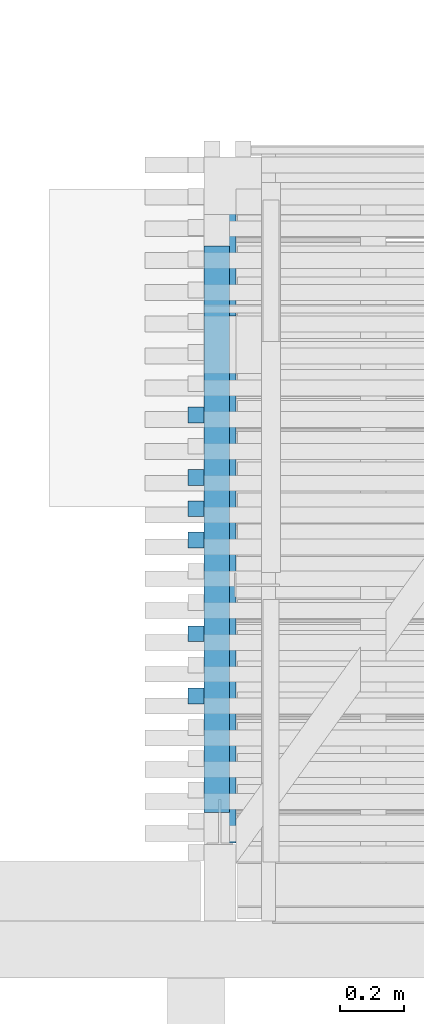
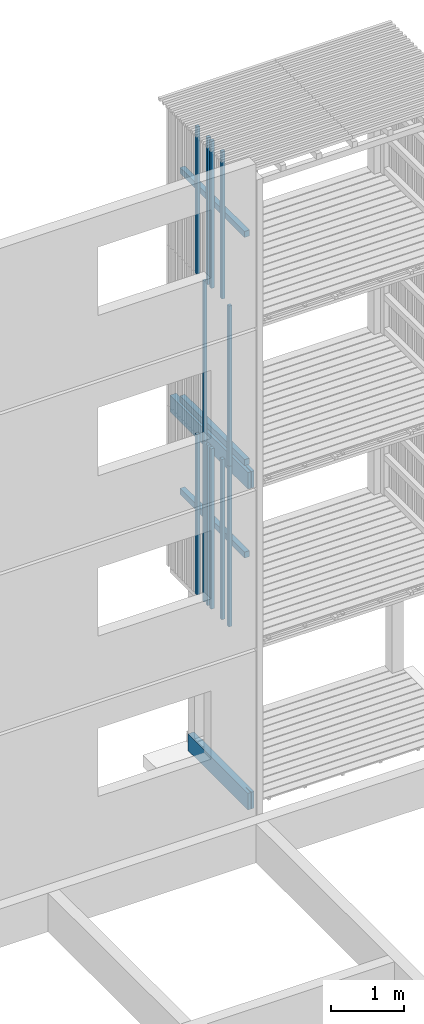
# One storey, part 113 of 182: 17 beams.
"""IFC2X3 building model written with IfcOpenShell, lengths in metres."""

from ifc_helpers import new_model, si_unit, frame, origin, place, context, project, spatial, faceted_brep, element, save


model = new_model("IFC2X3")

# Units and contexts
model_context = context("Model", 3, precision=1e-06, world=origin())
ifc_project = project(units=[si_unit("LENGTHUNIT", "METRE"), si_unit("PLANEANGLEUNIT", "RADIAN")], contexts=[model_context])

# Site, building, storey
site = spatial("IfcSite", under=ifc_project, CompositionType="ELEMENT")
building = spatial("IfcBuilding", under=site, CompositionType="ELEMENT")
storey = spatial("IfcBuildingStorey", under=building, Name="vs", CompositionType="ELEMENT", Elevation=-0.85)

# Beams
placement = place(None, origin())
beam_1_placement = place(placement, frame((53.074999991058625, 5.115077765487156, -0.119999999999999), z_axis=(0.0, 0.0, 1.0), x_axis=(0.0, 1.0, 0.0)))
element("IfcBeam", 1, at=beam_1_placement, inside=storey, Name="Sommier", context=model_context, shape_type="Brep", body=[
    faceted_brep([(0.771999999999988, -0.045000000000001, 0.051399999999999), (0.847999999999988, -0.045000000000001, 0.051399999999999), (0.847999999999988, -0.049999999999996, 0.051399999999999), (0.771999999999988, -0.049999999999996, 0.051399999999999), (0.847999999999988, -0.045000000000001, -0.123600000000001), (0.847999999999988, -0.049999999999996, -0.123600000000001), (0.847999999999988, -0.049999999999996, 0.051399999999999), (0.847999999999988, -0.045000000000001, 0.051399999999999), (0.771999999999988, -0.049999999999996, -0.123600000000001), (0.771999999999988, -0.045000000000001, -0.123600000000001), (0.771999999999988, -0.045000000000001, 0.051399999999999), (0.771999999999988, -0.049999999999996, 0.051399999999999), (0.847999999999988, -0.049999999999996, -0.123600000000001), (0.847999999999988, -0.045000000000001, -0.123600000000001), (0.771999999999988, -0.045000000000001, -0.123600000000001), (0.771999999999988, -0.049999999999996, -0.123600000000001), (1.654999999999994, 0.049999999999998, 0.14), (1.654999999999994, -0.049999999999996, 0.14), (1.654999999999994, -0.049999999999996, -0.14), (1.654999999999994, 0.049999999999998, -0.14), (0.137, -0.00399999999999, 0.14), (0.0, -0.00399999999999, 0.14), (0.0, -0.049999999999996, 0.14), (1.654999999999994, -0.049999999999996, 0.14), (1.654999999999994, 0.049999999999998, 0.14), (0.0, 0.049999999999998, 0.14), (0.0, 0.004000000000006, 0.14), (0.137, 0.004000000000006, 0.14), (0.0, -0.049999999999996, -0.14), (1.654999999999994, -0.049999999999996, -0.14), (1.654999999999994, -0.049999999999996, 0.14), (0.0, -0.049999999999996, 0.14), (0.771999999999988, -0.049999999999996, 0.051399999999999), (0.847999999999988, -0.049999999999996, 0.051399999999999), (0.847999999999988, -0.049999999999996, -0.123600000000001), (0.771999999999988, -0.049999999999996, -0.123600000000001), (0.771999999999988, -0.045000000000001, 0.051399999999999), (0.771999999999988, -0.045000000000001, -0.123600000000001), (0.847999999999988, -0.045000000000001, -0.123600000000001), (0.847999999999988, -0.045000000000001, 0.051399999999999), (0.0, 0.049999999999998, 0.14), (1.654999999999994, 0.049999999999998, 0.14), (1.654999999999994, 0.049999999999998, -0.14), (0.0, 0.049999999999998, -0.14), (0.0, 0.004000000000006, -0.14), (0.0, 0.004000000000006, 0.14), (0.0, 0.049999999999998, 0.14), (0.0, 0.049999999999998, -0.14), (0.0, -0.049999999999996, 0.14), (0.0, -0.00399999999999, 0.14), (0.0, -0.00399999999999, -0.14), (0.0, -0.049999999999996, -0.14), (0.0, 0.004000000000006, -0.14), (0.0, 0.049999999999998, -0.14), (1.654999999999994, 0.049999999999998, -0.14), (1.654999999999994, -0.049999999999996, -0.14), (0.0, -0.049999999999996, -0.14), (0.0, -0.00399999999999, -0.14), (0.137, -0.00399999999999, -0.14), (0.137, 0.004000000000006, -0.14), (0.137, 0.004000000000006, -0.14), (0.137, -0.00399999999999, -0.14), (0.137, -0.00399999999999, 0.14), (0.137, 0.004000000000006, 0.14), (0.0, -0.00399999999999, 0.14), (0.137, -0.00399999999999, 0.14), (0.137, -0.00399999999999, -0.14), (0.0, -0.00399999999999, -0.14), (0.137, 0.004000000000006, 0.14), (0.0, 0.004000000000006, 0.14), (0.0, 0.004000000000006, -0.14), (0.137, 0.004000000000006, -0.14)], [[[0, 1, 2, 3]], [[4, 5, 6, 7]], [[8, 9, 10, 11]], [[12, 13, 14, 15]], [[16, 17, 18, 19]], [[20, 21, 22, 23, 24, 25, 26, 27]], [[28, 29, 30, 31], [32, 33, 34, 35]], [[36, 37, 38, 39]], [[40, 41, 42, 43]], [[44, 45, 46, 47]], [[48, 49, 50, 51]], [[52, 53, 54, 55, 56, 57, 58, 59]], [[60, 61, 62, 63]], [[64, 65, 66, 67]], [[68, 69, 70, 71]]]),
])
beam_2_placement = place(placement, frame((53.074999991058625, 5.115077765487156, 5.279999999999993), z_axis=(0.0, 0.0, 1.0), x_axis=(0.0, 1.0, 0.0)))
element("IfcBeam", 2, at=beam_2_placement, inside=storey, Name="Sommier", context=model_context, shape_type="Brep", body=[
    faceted_brep([(2.154999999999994, 0.049999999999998, 0.140000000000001), (2.154999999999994, -0.049999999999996, 0.140000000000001), (2.154999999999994, -0.049999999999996, -0.140000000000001), (2.154999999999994, 0.049999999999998, -0.140000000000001), (0.771999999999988, -0.049999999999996, -0.140000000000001), (0.771999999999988, -0.049999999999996, 0.034999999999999), (0.847999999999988, -0.049999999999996, 0.034999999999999), (0.847999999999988, -0.049999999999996, -0.140000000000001), (2.154999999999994, -0.049999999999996, -0.140000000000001), (2.154999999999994, -0.049999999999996, 0.140000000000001), (0.0, -0.049999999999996, 0.140000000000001), (0.0, -0.049999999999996, -0.140000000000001), (0.771999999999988, -0.045000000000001, -0.140000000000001), (0.847999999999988, -0.045000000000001, -0.140000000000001), (0.847999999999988, -0.045000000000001, 0.034999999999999), (0.771999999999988, -0.045000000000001, 0.034999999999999), (0.771999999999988, -0.045000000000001, 0.034999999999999), (0.847999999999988, -0.045000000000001, 0.034999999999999), (0.847999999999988, -0.049999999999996, 0.034999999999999), (0.771999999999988, -0.049999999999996, 0.034999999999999), (0.847999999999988, -0.045000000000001, 0.034999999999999), (0.847999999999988, -0.045000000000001, -0.140000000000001), (0.847999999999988, -0.049999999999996, -0.140000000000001), (0.847999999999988, -0.049999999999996, 0.034999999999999), (0.771999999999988, -0.049999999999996, 0.034999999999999), (0.771999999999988, -0.049999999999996, -0.140000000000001), (0.771999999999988, -0.045000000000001, -0.140000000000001), (0.771999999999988, -0.045000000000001, 0.034999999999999), (2.154999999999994, 0.049999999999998, 0.140000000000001), (2.154999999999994, 0.049999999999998, -0.140000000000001), (0.0, 0.049999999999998, -0.140000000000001), (0.0, 0.049999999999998, 0.140000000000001), (0.0, -0.00399999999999, 0.140000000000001), (0.0, -0.049999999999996, 0.140000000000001), (2.154999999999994, -0.049999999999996, 0.140000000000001), (2.154999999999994, 0.049999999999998, 0.140000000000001), (0.0, 0.049999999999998, 0.140000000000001), (0.0, 0.004000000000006, 0.140000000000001), (0.137, 0.004000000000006, 0.140000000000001), (0.137, -0.00399999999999, 0.140000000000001), (0.0, 0.004000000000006, -0.140000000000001), (0.0, 0.004000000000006, 0.140000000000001), (0.0, 0.049999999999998, 0.140000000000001), (0.0, 0.049999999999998, -0.140000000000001), (0.0, -0.049999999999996, 0.140000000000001), (0.0, -0.00399999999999, 0.140000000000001), (0.0, -0.00399999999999, -0.140000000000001), (0.0, -0.049999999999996, -0.140000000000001), (0.0, 0.049999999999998, -0.140000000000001), (2.154999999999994, 0.049999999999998, -0.140000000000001), (2.154999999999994, -0.049999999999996, -0.140000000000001), (0.847999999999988, -0.049999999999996, -0.140000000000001), (0.847999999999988, -0.045000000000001, -0.140000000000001), (0.771999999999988, -0.045000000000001, -0.140000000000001), (0.771999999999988, -0.049999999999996, -0.140000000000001), (0.0, -0.049999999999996, -0.140000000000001), (0.0, -0.00399999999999, -0.140000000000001), (0.137, -0.00399999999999, -0.140000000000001), (0.137, 0.004000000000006, -0.140000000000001), (0.0, 0.004000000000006, -0.140000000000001), (0.137, 0.004000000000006, -0.140000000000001), (0.137, -0.00399999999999, -0.140000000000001), (0.137, -0.00399999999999, 0.140000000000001), (0.137, 0.004000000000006, 0.140000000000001), (0.0, -0.00399999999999, 0.140000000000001), (0.137, -0.00399999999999, 0.140000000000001), (0.137, -0.00399999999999, -0.140000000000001), (0.0, -0.00399999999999, -0.140000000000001), (0.137, 0.004000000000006, 0.140000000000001), (0.0, 0.004000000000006, 0.140000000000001), (0.0, 0.004000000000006, -0.140000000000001), (0.137, 0.004000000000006, -0.140000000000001)], [[[0, 1, 2, 3]], [[4, 5, 6, 7, 8, 9, 10, 11]], [[12, 13, 14, 15]], [[16, 17, 18, 19]], [[20, 21, 22, 23]], [[24, 25, 26, 27]], [[28, 29, 30, 31]], [[32, 33, 34, 35, 36, 37, 38, 39]], [[40, 41, 42, 43]], [[44, 45, 46, 47]], [[48, 49, 50, 51, 52, 53, 54, 55, 56, 57, 58, 59]], [[60, 61, 62, 63]], [[64, 65, 66, 67]], [[68, 69, 70, 71]]]),
])
beam_3_placement = place(placement, frame((53.06499999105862, 5.210077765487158, 5.529999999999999), z_axis=(0.0, 0.0, 1.0), x_axis=(0.0, 1.0, 0.0)))
element("IfcBeam", 3, at=beam_3_placement, inside=storey, Name="Support bardage", context=model_context, shape_type="Brep", body=[
    faceted_brep([(1.779999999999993, 0.039999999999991, -0.050000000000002), (1.779999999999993, 0.039999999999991, 0.05), (1.779999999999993, -0.040000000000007, 0.05), (1.779999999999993, -0.040000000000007, -0.050000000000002), (1.779999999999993, -0.040000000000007, 0.05), (1.779999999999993, 0.039999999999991, 0.05), (-4e-15, 0.039999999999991, 0.05), (-4e-15, -0.040000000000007, 0.05), (-4e-15, 0.039999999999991, 0.05), (1.779999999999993, 0.039999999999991, 0.05), (1.779999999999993, 0.039999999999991, -0.050000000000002), (-4e-15, 0.039999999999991, -0.050000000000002), (1.779999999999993, -0.040000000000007, -0.050000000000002), (1.779999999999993, -0.040000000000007, 0.05), (-4e-15, -0.040000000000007, 0.05), (-4e-15, -0.040000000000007, -0.050000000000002), (-4e-15, 0.039999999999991, -0.050000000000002), (1.779999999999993, 0.039999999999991, -0.050000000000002), (1.779999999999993, -0.040000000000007, -0.050000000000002), (-4e-15, -0.040000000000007, -0.050000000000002), (-4e-15, 0.039999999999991, 0.05), (-4e-15, 0.039999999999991, -0.050000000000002), (-4e-15, -0.040000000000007, -0.050000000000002), (-4e-15, -0.040000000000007, 0.05)], [[[0, 1, 2, 3]], [[4, 5, 6, 7]], [[8, 9, 10, 11]], [[12, 13, 14, 15]], [[16, 17, 18, 19]], [[20, 21, 22, 23]]]),
])
beam_4_placement = place(placement, frame((52.999999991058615, 6.459623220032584, 7.974999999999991), z_axis=(1.0, 0.0, 0.0), x_axis=(0.0, 0.0, 1.0)))
element("IfcBeam", 4, at=beam_4_placement, inside=storey, Name="Bardage", context=model_context, shape_type="Brep", body=[
    faceted_brep([(0.0, -0.025000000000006, 0.025000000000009), (0.0, 0.024999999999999, 0.025000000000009), (0.0, 0.024999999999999, -0.025000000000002), (0.0, -0.025000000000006, -0.025000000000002), (2.479999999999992, 0.024999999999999, -0.025000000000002), (2.479999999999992, 0.024999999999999, 0.025000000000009), (2.479999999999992, -0.025000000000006, 0.025000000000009), (2.479999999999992, -0.025000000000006, -0.025000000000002), (0.0, 0.024999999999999, 0.025000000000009), (0.0, -0.025000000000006, 0.025000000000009), (2.479999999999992, -0.025000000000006, 0.025000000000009), (2.479999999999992, 0.024999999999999, 0.025000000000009), (0.0, 0.024999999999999, -0.025000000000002), (0.0, 0.024999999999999, 0.025000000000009), (2.479999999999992, 0.024999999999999, 0.025000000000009), (2.479999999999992, 0.024999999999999, -0.025000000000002), (0.0, -0.025000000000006, -0.025000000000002), (0.0, 0.024999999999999, -0.025000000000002), (2.479999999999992, 0.024999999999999, -0.025000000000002), (2.479999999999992, -0.025000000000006, -0.025000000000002), (2.479999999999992, -0.025000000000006, 0.025000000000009), (0.0, -0.025000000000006, 0.025000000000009), (0.0, -0.025000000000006, -0.025000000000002), (2.479999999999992, -0.025000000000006, -0.025000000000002)], [[[0, 1, 2, 3]], [[4, 5, 6, 7]], [[8, 9, 10, 11]], [[12, 13, 14, 15]], [[16, 17, 18, 19]], [[20, 21, 22, 23]]]),
])
beam_5_placement = place(placement, frame((52.999999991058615, 5.575986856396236, 5.274999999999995), z_axis=(1.0, 0.0, 0.0), x_axis=(0.0, 0.0, 1.0)))
element("IfcBeam", 5, at=beam_5_placement, inside=storey, Name="Bardage", context=model_context, shape_type="Brep", body=[
    faceted_brep([(2.699999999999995, 0.024999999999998, 0.025000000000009), (2.699999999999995, -0.024999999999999, 0.025000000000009), (2.699999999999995, -0.024999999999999, -0.025000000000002), (2.699999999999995, 0.024999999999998, -0.025000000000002), (1e-15, 0.024999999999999, 0.025000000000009), (2.699999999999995, 0.024999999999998, 0.025000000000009), (2.699999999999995, 0.024999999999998, -0.025000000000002), (1e-15, 0.024999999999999, -0.025000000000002), (1e-15, -0.024999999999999, 0.025000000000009), (1e-15, 0.024999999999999, 0.025000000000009), (1e-15, 0.024999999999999, -0.025000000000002), (1e-15, -0.024999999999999, -0.025000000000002), (1e-15, 0.024999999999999, 0.025000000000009), (1e-15, -0.024999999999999, 0.025000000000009), (2.699999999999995, -0.024999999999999, 0.025000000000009), (2.699999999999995, 0.024999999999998, 0.025000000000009), (1e-15, -0.024999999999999, 0.025000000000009), (1e-15, -0.024999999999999, -0.025000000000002), (2.699999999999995, -0.024999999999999, -0.025000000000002), (2.699999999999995, -0.024999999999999, 0.025000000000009), (1e-15, -0.024999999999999, -0.025000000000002), (1e-15, 0.024999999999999, -0.025000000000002), (2.699999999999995, 0.024999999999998, -0.025000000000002), (2.699999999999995, -0.024999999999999, -0.025000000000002)], [[[0, 1, 2, 3]], [[4, 5, 6, 7]], [[8, 9, 10, 11]], [[12, 13, 14, 15]], [[16, 17, 18, 19]], [[20, 21, 22, 23]]]),
])
beam_6_placement = place(placement, frame((53.06499999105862, 5.210077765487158, 3.972499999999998), z_axis=(0.0, 0.0, 1.0), x_axis=(0.0, 1.0, 0.0)))
element("IfcBeam", 6, at=beam_6_placement, inside=storey, Name="Support bardage", context=model_context, shape_type="Brep", body=[
    faceted_brep([(1.779999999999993, 0.039999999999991, -0.050000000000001), (1.779999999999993, 0.039999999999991, 0.050000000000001), (1.779999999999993, -0.040000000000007, 0.050000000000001), (1.779999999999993, -0.040000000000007, -0.050000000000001), (1.779999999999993, -0.040000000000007, 0.050000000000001), (1.779999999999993, 0.039999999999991, 0.050000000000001), (-4e-15, 0.039999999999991, 0.050000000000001), (-4e-15, -0.040000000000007, 0.050000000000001), (-4e-15, 0.039999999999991, 0.050000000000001), (1.779999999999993, 0.039999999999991, 0.050000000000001), (1.779999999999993, 0.039999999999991, -0.050000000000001), (-4e-15, 0.039999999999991, -0.050000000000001), (1.779999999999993, -0.040000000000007, -0.050000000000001), (1.779999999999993, -0.040000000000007, 0.050000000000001), (-4e-15, -0.040000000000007, 0.050000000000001), (-4e-15, -0.040000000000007, -0.050000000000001), (-4e-15, 0.039999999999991, -0.050000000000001), (1.779999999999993, 0.039999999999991, -0.050000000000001), (1.779999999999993, -0.040000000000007, -0.050000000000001), (-4e-15, -0.040000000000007, -0.050000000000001), (-4e-15, 0.039999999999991, 0.050000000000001), (-4e-15, 0.039999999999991, -0.050000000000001), (-4e-15, -0.040000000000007, -0.050000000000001), (-4e-15, -0.040000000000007, 0.050000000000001)], [[[0, 1, 2, 3]], [[4, 5, 6, 7]], [[8, 9, 10, 11]], [[12, 13, 14, 15]], [[16, 17, 18, 19]], [[20, 21, 22, 23]]]),
])
beam_7_placement = place(placement, frame((52.999999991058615, 6.165077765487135, 7.974999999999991), z_axis=(1.0, 0.0, 0.0), x_axis=(0.0, 1e-15, 1.0)))
element("IfcBeam", 7, at=beam_7_placement, inside=storey, Name="Bardage", context=model_context, shape_type="Brep", body=[
    faceted_brep([(0.0, -0.025000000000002, 0.025000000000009), (0.0, 0.024999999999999, 0.025000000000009), (0.0, 0.024999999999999, -0.025000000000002), (0.0, -0.025000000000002, -0.025000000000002), (2.479999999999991, 0.025000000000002, -0.025000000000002), (2.479999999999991, 0.025000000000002, 0.025000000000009), (2.479999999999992, -0.025000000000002, 0.025000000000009), (2.479999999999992, -0.025000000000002, -0.025000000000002), (0.0, 0.024999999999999, 0.025000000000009), (0.0, -0.025000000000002, 0.025000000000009), (2.479999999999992, -0.025000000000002, 0.025000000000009), (2.479999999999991, 0.025000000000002, 0.025000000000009), (0.0, 0.024999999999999, -0.025000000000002), (0.0, 0.024999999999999, 0.025000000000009), (2.479999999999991, 0.025000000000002, 0.025000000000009), (2.479999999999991, 0.025000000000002, -0.025000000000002), (0.0, -0.025000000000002, -0.025000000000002), (0.0, 0.024999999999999, -0.025000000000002), (2.479999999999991, 0.025000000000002, -0.025000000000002), (2.479999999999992, -0.025000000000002, -0.025000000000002), (2.479999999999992, -0.025000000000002, 0.025000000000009), (0.0, -0.025000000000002, 0.025000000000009), (0.0, -0.025000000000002, -0.025000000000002), (2.479999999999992, -0.025000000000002, -0.025000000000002)], [[[0, 1, 2, 3]], [[4, 5, 6, 7]], [[8, 9, 10, 11]], [[12, 13, 14, 15]], [[16, 17, 18, 19]], [[20, 21, 22, 23]]]),
])
beam_8_placement = place(placement, frame((52.999999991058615, 6.263259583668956, 2.575000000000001), z_axis=(1.0, 0.0, 0.0), x_axis=(0.0, 0.0, 1.0)))
element("IfcBeam", 8, at=beam_8_placement, inside=storey, Name="Bardage", context=model_context, shape_type="Brep", body=[
    faceted_brep([(2.699961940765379, -0.024999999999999, 0.025000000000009), (2.699961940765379, -0.024999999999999, -0.025000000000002), (2.699961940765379, 0.024999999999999, -0.025000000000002), (2.699961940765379, 0.024999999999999, 0.025000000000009), (0.0, -0.024999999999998, 0.025000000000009), (2.699961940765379, -0.024999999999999, 0.025000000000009), (2.699961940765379, 0.024999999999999, 0.025000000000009), (0.0, 0.025000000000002, 0.025000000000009), (0.0, -0.024999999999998, 0.025000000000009), (0.0, 0.025000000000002, 0.025000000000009), (0.0, 0.025000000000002, -0.025000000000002), (0.0, -0.024999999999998, -0.025000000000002), (0.0, -0.024999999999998, 0.025000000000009), (0.0, -0.024999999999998, -0.025000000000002), (2.699961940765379, -0.024999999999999, -0.025000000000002), (2.699961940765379, -0.024999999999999, 0.025000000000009), (0.0, -0.024999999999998, -0.025000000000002), (0.0, 0.025000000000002, -0.025000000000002), (2.699961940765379, 0.024999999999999, -0.025000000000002), (2.699961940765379, -0.024999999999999, -0.025000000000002), (0.0, 0.025000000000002, -0.025000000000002), (0.0, 0.025000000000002, 0.025000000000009), (2.699961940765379, 0.024999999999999, 0.025000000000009), (2.699961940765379, 0.024999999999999, -0.025000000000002)], [[[0, 1, 2, 3]], [[4, 5, 6, 7]], [[8, 9, 10, 11]], [[12, 13, 14, 15]], [[16, 17, 18, 19]], [[20, 21, 22, 23]]]),
])
beam_9_placement = place(placement, frame((52.999999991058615, 6.066895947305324, 2.575000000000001), z_axis=(1.0, 0.0, 0.0), x_axis=(0.0, 0.0, 1.0)))
element("IfcBeam", 9, at=beam_9_placement, inside=storey, Name="Bardage", context=model_context, shape_type="Brep", body=[
    faceted_brep([(2.699961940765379, -0.024999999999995, 0.025000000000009), (2.699961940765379, -0.024999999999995, -0.025000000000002), (2.699961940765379, 0.025000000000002, -0.025000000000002), (2.699961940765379, 0.025000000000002, 0.025000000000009), (0.0, -0.024999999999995, 0.025000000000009), (2.699961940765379, -0.024999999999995, 0.025000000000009), (2.699961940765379, 0.025000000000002, 0.025000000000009), (0.0, 0.025000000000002, 0.025000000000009), (0.0, -0.024999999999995, 0.025000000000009), (0.0, 0.025000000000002, 0.025000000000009), (0.0, 0.025000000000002, -0.025000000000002), (0.0, -0.024999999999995, -0.025000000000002), (0.0, -0.024999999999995, 0.025000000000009), (0.0, -0.024999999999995, -0.025000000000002), (2.699961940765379, -0.024999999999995, -0.025000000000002), (2.699961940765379, -0.024999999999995, 0.025000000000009), (0.0, -0.024999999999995, -0.025000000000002), (0.0, 0.025000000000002, -0.025000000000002), (2.699961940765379, 0.025000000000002, -0.025000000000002), (2.699961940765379, -0.024999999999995, -0.025000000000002), (0.0, 0.025000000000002, -0.025000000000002), (0.0, 0.025000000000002, 0.025000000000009), (2.699961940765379, 0.025000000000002, 0.025000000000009), (2.699961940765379, 0.025000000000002, -0.025000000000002)], [[[0, 1, 2, 3]], [[4, 5, 6, 7]], [[8, 9, 10, 11]], [[12, 13, 14, 15]], [[16, 17, 18, 19]], [[20, 21, 22, 23]]]),
])
beam_10_placement = place(placement, frame((53.06499999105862, 5.210077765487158, 9.37249999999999), z_axis=(0.0, 0.0, 1.0), x_axis=(0.0, 1.0, 0.0)))
element("IfcBeam", 10, at=beam_10_placement, inside=storey, Name="Support bardage", context=model_context, shape_type="Brep", body=[
    faceted_brep([(1.779999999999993, 0.039999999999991, -0.050000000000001), (1.779999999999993, 0.039999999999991, 0.050000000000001), (1.779999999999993, -0.040000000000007, 0.050000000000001), (1.779999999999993, -0.040000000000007, -0.050000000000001), (1.779999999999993, -0.040000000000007, 0.050000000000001), (1.779999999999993, 0.039999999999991, 0.050000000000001), (-4e-15, 0.039999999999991, 0.050000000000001), (-4e-15, -0.040000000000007, 0.050000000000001), (-4e-15, 0.039999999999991, 0.050000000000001), (1.779999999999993, 0.039999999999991, 0.050000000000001), (1.779999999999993, 0.039999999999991, -0.050000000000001), (-4e-15, 0.039999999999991, -0.050000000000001), (1.779999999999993, -0.040000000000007, -0.050000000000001), (1.779999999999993, -0.040000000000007, 0.050000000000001), (-4e-15, -0.040000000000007, 0.050000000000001), (-4e-15, -0.040000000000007, -0.050000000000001), (-4e-15, 0.039999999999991, -0.050000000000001), (1.779999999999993, 0.039999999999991, -0.050000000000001), (1.779999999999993, -0.040000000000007, -0.050000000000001), (-4e-15, -0.040000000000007, -0.050000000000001), (-4e-15, 0.039999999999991, 0.050000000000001), (-4e-15, 0.039999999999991, -0.050000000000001), (-4e-15, -0.040000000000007, -0.050000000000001), (-4e-15, -0.040000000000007, 0.050000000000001)], [[[0, 1, 2, 3]], [[4, 5, 6, 7]], [[8, 9, 10, 11]], [[12, 13, 14, 15]], [[16, 17, 18, 19]], [[20, 21, 22, 23]]]),
])
beam_11_placement = place(placement, frame((52.999999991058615, 5.772350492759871, 7.974999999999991), z_axis=(1.0, 0.0, 0.0), x_axis=(0.0, 0.0, 1.0)))
element("IfcBeam", 11, at=beam_11_placement, inside=storey, Name="Bardage", context=model_context, shape_type="Brep", body=[
    faceted_brep([(0.0, -0.024999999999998, 0.025000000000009), (0.0, 0.024999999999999, 0.025000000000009), (0.0, 0.024999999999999, -0.025000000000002), (0.0, -0.024999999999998, -0.025000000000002), (2.479999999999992, 0.024999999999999, -0.025000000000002), (2.479999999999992, 0.024999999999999, 0.025000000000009), (2.479999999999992, -0.024999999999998, 0.025000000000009), (2.479999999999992, -0.024999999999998, -0.025000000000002), (0.0, 0.024999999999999, 0.025000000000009), (0.0, -0.024999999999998, 0.025000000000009), (2.479999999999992, -0.024999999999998, 0.025000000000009), (2.479999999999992, 0.024999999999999, 0.025000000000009), (0.0, 0.024999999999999, -0.025000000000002), (0.0, 0.024999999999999, 0.025000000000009), (2.479999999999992, 0.024999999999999, 0.025000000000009), (2.479999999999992, 0.024999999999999, -0.025000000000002), (0.0, -0.024999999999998, -0.025000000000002), (0.0, 0.024999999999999, -0.025000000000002), (2.479999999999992, 0.024999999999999, -0.025000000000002), (2.479999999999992, -0.024999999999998, -0.025000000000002), (2.479999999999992, -0.024999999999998, 0.025000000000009), (0.0, -0.024999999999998, 0.025000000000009), (0.0, -0.024999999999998, -0.025000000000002), (2.479999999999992, -0.024999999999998, -0.025000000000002)], [[[0, 1, 2, 3]], [[4, 5, 6, 7]], [[8, 9, 10, 11]], [[12, 13, 14, 15]], [[16, 17, 18, 19]], [[20, 21, 22, 23]]]),
])
beam_12_placement = place(placement, frame((52.999999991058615, 5.772350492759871, 2.575000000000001), z_axis=(1.0, 0.0, 0.0), x_axis=(0.0, 0.0, 1.0)))
element("IfcBeam", 12, at=beam_12_placement, inside=storey, Name="Bardage", context=model_context, shape_type="Brep", body=[
    faceted_brep([(2.699961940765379, -0.024999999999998, 0.025000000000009), (2.699961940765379, -0.024999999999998, -0.025000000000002), (2.699961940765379, 0.024999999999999, -0.025000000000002), (2.699961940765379, 0.024999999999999, 0.025000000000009), (0.0, -0.024999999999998, 0.025000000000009), (2.699961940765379, -0.024999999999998, 0.025000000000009), (2.699961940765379, 0.024999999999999, 0.025000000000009), (0.0, 0.024999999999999, 0.025000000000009), (0.0, -0.024999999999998, 0.025000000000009), (0.0, 0.024999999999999, 0.025000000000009), (0.0, 0.024999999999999, -0.025000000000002), (0.0, -0.024999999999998, -0.025000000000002), (0.0, -0.024999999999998, 0.025000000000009), (0.0, -0.024999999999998, -0.025000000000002), (2.699961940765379, -0.024999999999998, -0.025000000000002), (2.699961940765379, -0.024999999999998, 0.025000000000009), (0.0, -0.024999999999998, -0.025000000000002), (0.0, 0.024999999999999, -0.025000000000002), (2.699961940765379, 0.024999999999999, -0.025000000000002), (2.699961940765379, -0.024999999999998, -0.025000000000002), (0.0, 0.024999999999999, -0.025000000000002), (0.0, 0.024999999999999, 0.025000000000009), (2.699961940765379, 0.024999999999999, 0.025000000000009), (2.699961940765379, 0.024999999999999, -0.025000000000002)], [[[0, 1, 2, 3]], [[4, 5, 6, 7]], [[8, 9, 10, 11]], [[12, 13, 14, 15]], [[16, 17, 18, 19]], [[20, 21, 22, 23]]]),
])
beam_13_placement = place(placement, frame((52.999999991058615, 6.459623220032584, 2.575000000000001), z_axis=(1.0, 0.0, 0.0), x_axis=(0.0, 0.0, 1.0)))
element("IfcBeam", 13, at=beam_13_placement, inside=storey, Name="Bardage", context=model_context, shape_type="Brep", body=[
    faceted_brep([(2.699961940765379, -0.025000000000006, 0.025000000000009), (2.699961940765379, -0.025000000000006, -0.025000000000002), (2.699961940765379, 0.024999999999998, -0.025000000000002), (2.699961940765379, 0.024999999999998, 0.025000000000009), (0.0, -0.025000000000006, 0.025000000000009), (2.699961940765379, -0.025000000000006, 0.025000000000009), (2.699961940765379, 0.024999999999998, 0.025000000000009), (0.0, 0.024999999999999, 0.025000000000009), (0.0, -0.025000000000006, 0.025000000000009), (0.0, 0.024999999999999, 0.025000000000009), (0.0, 0.024999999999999, -0.025000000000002), (0.0, -0.025000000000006, -0.025000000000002), (0.0, -0.025000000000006, 0.025000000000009), (0.0, -0.025000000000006, -0.025000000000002), (2.699961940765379, -0.025000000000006, -0.025000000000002), (2.699961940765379, -0.025000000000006, 0.025000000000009), (0.0, -0.025000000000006, -0.025000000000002), (0.0, 0.024999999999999, -0.025000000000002), (2.699961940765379, 0.024999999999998, -0.025000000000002), (2.699961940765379, -0.025000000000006, -0.025000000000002), (0.0, 0.024999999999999, -0.025000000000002), (0.0, 0.024999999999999, 0.025000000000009), (2.699961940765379, 0.024999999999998, 0.025000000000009), (2.699961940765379, 0.024999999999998, -0.025000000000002)], [[[0, 1, 2, 3]], [[4, 5, 6, 7]], [[8, 9, 10, 11]], [[12, 13, 14, 15]], [[16, 17, 18, 19]], [[20, 21, 22, 23]]]),
])
beam_14_placement = place(placement, frame((52.999999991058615, 5.575986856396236, 2.575000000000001), z_axis=(1.0, 0.0, 0.0), x_axis=(0.0, 0.0, 1.0)))
element("IfcBeam", 14, at=beam_14_placement, inside=storey, Name="Bardage", context=model_context, shape_type="Brep", body=[
    faceted_brep([(2.699961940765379, -0.025000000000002, 0.025000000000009), (2.699961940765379, -0.025000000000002, -0.025000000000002), (2.699961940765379, 0.024999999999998, -0.025000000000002), (2.699961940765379, 0.024999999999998, 0.025000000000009), (0.0, -0.024999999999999, 0.025000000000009), (2.699961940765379, -0.025000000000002, 0.025000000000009), (2.699961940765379, 0.024999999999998, 0.025000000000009), (0.0, 0.024999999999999, 0.025000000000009), (0.0, -0.024999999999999, 0.025000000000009), (0.0, 0.024999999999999, 0.025000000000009), (0.0, 0.024999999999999, -0.025000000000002), (0.0, -0.024999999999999, -0.025000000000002), (0.0, -0.024999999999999, 0.025000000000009), (0.0, -0.024999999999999, -0.025000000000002), (2.699961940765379, -0.025000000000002, -0.025000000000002), (2.699961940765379, -0.025000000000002, 0.025000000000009), (0.0, -0.024999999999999, -0.025000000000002), (0.0, 0.024999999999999, -0.025000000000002), (2.699961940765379, 0.024999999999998, -0.025000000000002), (2.699961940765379, -0.025000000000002, -0.025000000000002), (0.0, 0.024999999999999, -0.025000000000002), (0.0, 0.024999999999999, 0.025000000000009), (2.699961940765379, 0.024999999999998, 0.025000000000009), (2.699961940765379, 0.024999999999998, -0.025000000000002)], [[[0, 1, 2, 3]], [[4, 5, 6, 7]], [[8, 9, 10, 11]], [[12, 13, 14, 15]], [[16, 17, 18, 19]], [[20, 21, 22, 23]]]),
])
beam_15_placement = place(placement, frame((52.999999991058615, 6.165077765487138, 2.575000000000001), z_axis=(1.0, 0.0, 0.0), x_axis=(0.0, 0.0, 1.0)))
element("IfcBeam", 15, at=beam_15_placement, inside=storey, Name="Bardage", context=model_context, shape_type="Brep", body=[
    faceted_brep([(2.699961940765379, -0.025000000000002, 0.025000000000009), (2.699961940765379, -0.025000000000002, -0.025000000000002), (2.699961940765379, 0.025000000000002, -0.025000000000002), (2.699961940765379, 0.025000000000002, 0.025000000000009), (0.0, -0.025000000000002, 0.025000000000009), (2.699961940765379, -0.025000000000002, 0.025000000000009), (2.699961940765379, 0.025000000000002, 0.025000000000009), (0.0, 0.025000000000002, 0.025000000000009), (0.0, -0.025000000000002, 0.025000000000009), (0.0, 0.025000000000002, 0.025000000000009), (0.0, 0.025000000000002, -0.025000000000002), (0.0, -0.025000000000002, -0.025000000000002), (0.0, -0.025000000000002, 0.025000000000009), (0.0, -0.025000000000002, -0.025000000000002), (2.699961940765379, -0.025000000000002, -0.025000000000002), (2.699961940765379, -0.025000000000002, 0.025000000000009), (0.0, -0.025000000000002, -0.025000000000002), (0.0, 0.025000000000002, -0.025000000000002), (2.699961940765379, 0.025000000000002, -0.025000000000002), (2.699961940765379, -0.025000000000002, -0.025000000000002), (0.0, 0.025000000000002, -0.025000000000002), (0.0, 0.025000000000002, 0.025000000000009), (2.699961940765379, 0.025000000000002, 0.025000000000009), (2.699961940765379, 0.025000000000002, -0.025000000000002)], [[[0, 1, 2, 3]], [[4, 5, 6, 7]], [[8, 9, 10, 11]], [[12, 13, 14, 15]], [[16, 17, 18, 19]], [[20, 21, 22, 23]]]),
])
beam_16_placement = place(placement, frame((52.999999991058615, 6.263259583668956, 5.274999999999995), z_axis=(1.0, 0.0, 0.0), x_axis=(0.0, 0.0, 1.0)))
element("IfcBeam", 16, at=beam_16_placement, inside=storey, Name="Bardage", context=model_context, shape_type="Brep", body=[
    faceted_brep([(2.699999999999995, 0.025000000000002, 0.025000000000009), (2.699999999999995, -0.024999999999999, 0.025000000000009), (2.699999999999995, -0.024999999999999, -0.025000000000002), (2.699999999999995, 0.025000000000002, -0.025000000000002), (1e-15, 0.025000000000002, 0.025000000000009), (2.699999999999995, 0.025000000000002, 0.025000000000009), (2.699999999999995, 0.025000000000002, -0.025000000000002), (1e-15, 0.025000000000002, -0.025000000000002), (1e-15, -0.024999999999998, 0.025000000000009), (1e-15, 0.025000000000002, 0.025000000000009), (1e-15, 0.025000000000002, -0.025000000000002), (1e-15, -0.024999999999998, -0.025000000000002), (1e-15, 0.025000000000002, 0.025000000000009), (1e-15, -0.024999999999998, 0.025000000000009), (2.699999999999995, -0.024999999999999, 0.025000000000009), (2.699999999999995, 0.025000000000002, 0.025000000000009), (1e-15, -0.024999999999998, 0.025000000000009), (1e-15, -0.024999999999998, -0.025000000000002), (2.699999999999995, -0.024999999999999, -0.025000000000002), (2.699999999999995, -0.024999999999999, 0.025000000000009), (1e-15, -0.024999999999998, -0.025000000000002), (1e-15, 0.025000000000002, -0.025000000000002), (2.699999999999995, 0.025000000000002, -0.025000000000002), (2.699999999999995, -0.024999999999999, -0.025000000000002)], [[[0, 1, 2, 3]], [[4, 5, 6, 7]], [[8, 9, 10, 11]], [[12, 13, 14, 15]], [[16, 17, 18, 19]], [[20, 21, 22, 23]]]),
])
beam_17_placement = place(placement, frame((52.999999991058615, 6.066895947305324, 7.974999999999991), z_axis=(1.0, 0.0, 0.0), x_axis=(0.0, 0.0, 1.0)))
element("IfcBeam", 17, at=beam_17_placement, inside=storey, Name="Bardage", context=model_context, shape_type="Brep", body=[
    faceted_brep([(0.0, -0.024999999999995, 0.025000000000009), (0.0, 0.025000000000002, 0.025000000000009), (0.0, 0.025000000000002, -0.025000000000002), (0.0, -0.024999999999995, -0.025000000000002), (2.479999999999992, 0.025000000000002, -0.025000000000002), (2.479999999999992, 0.025000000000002, 0.025000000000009), (2.479999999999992, -0.024999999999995, 0.025000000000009), (2.479999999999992, -0.024999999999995, -0.025000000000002), (0.0, 0.025000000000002, 0.025000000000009), (0.0, -0.024999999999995, 0.025000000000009), (2.479999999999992, -0.024999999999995, 0.025000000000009), (2.479999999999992, 0.025000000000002, 0.025000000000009), (0.0, 0.025000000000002, -0.025000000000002), (0.0, 0.025000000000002, 0.025000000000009), (2.479999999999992, 0.025000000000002, 0.025000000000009), (2.479999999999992, 0.025000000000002, -0.025000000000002), (0.0, -0.024999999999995, -0.025000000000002), (0.0, 0.025000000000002, -0.025000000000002), (2.479999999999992, 0.025000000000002, -0.025000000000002), (2.479999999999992, -0.024999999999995, -0.025000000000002), (2.479999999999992, -0.024999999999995, 0.025000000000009), (0.0, -0.024999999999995, 0.025000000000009), (0.0, -0.024999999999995, -0.025000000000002), (2.479999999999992, -0.024999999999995, -0.025000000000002)], [[[0, 1, 2, 3]], [[4, 5, 6, 7]], [[8, 9, 10, 11]], [[12, 13, 14, 15]], [[16, 17, 18, 19]], [[20, 21, 22, 23]]]),
])

save(model, "model.ifc")
